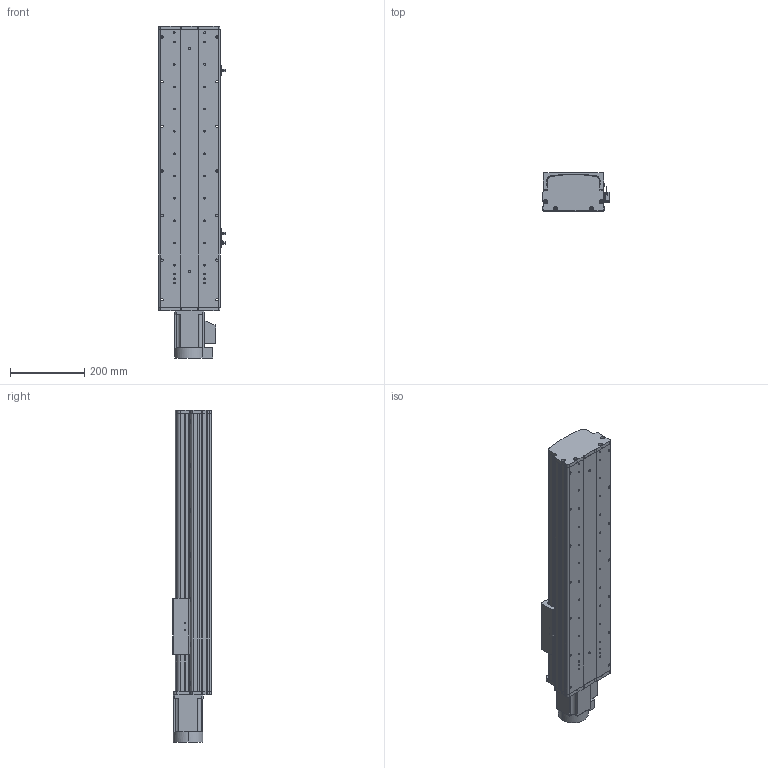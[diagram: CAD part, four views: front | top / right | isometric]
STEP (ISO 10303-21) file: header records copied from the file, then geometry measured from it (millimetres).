
FILE_DESCRIPTION (( 'STEP AP214' ), '1' );
FILE_NAME ('KSD165S-S450-MN-CM .STEP', '2017-08-07T08:08:37', ( '微软用户' ), ( '微软中国' ), 'SwSTEP 2.0', 'SolidWorks 2014', '' );
FILE_SCHEMA (( 'AUTOMOTIVE_DESIGN' ));
Length unit declared in the file: millimetre
Products named in the file (12): KSD165模组-丝杆滑动座-最新版; KSD165S-S450-MN-CM ; KSD165模组-防尘盖1-450行程-直连不带电机座; KSD165模组底板-450行程-直连不带电机座; 拸秶雄ん750W侜督萇儂; KSD165模组-直连不带电机座电机连接板; KSD165耀郪-佪裝-滅袉菜-3 -; C44ㄜ1912WP; 覜茼え68遵圉猾敕; U倰嫖萇假蚾璃; U倰嫖萇EEㄜSX672; KSD165耀郪-綴傷啣1
Assembly tree (15 placements, depth 2):
  KSD165S-S450-MN-CM 
    KSD165模组-丝杆滑动座-最新版
    KSD165耀郪-綴傷啣1
    U倰嫖萇EEㄜSX672  x3
    U倰嫖萇假蚾璃  x3
    覜茼え68遵圉猾敕
    C44ㄜ1912WP
    KSD165耀郪-佪裝-滅袉菜-3 -
    KSD165模组-直连不带电机座电机连接板
    拸秶雄ん750W侜督萇儂
    KSD165模组底板-450行程-直连不带电机座
    KSD165模组-防尘盖1-450行程-直连不带电机座
Bounding box: 178.7 x 104 x 893 mm (x, y, z)
Volume: 5382768.8 mm3; surface area: 1166749 mm2
Topology: 16 solids, 16 shells, 1183 faces, 3304 edges, 2141 vertices
Faces by surface type: cylinder 615, plane 491, cone 77
Entity records: 37015 total; most frequent: CARTESIAN_POINT 8307, DIRECTION 5505, ORIENTED_EDGE 5288, EDGE_CURVE 2644, AXIS2_PLACEMENT_3D 2059, VERTEX_POINT 1733, VECTOR 1387, LINE 1387
